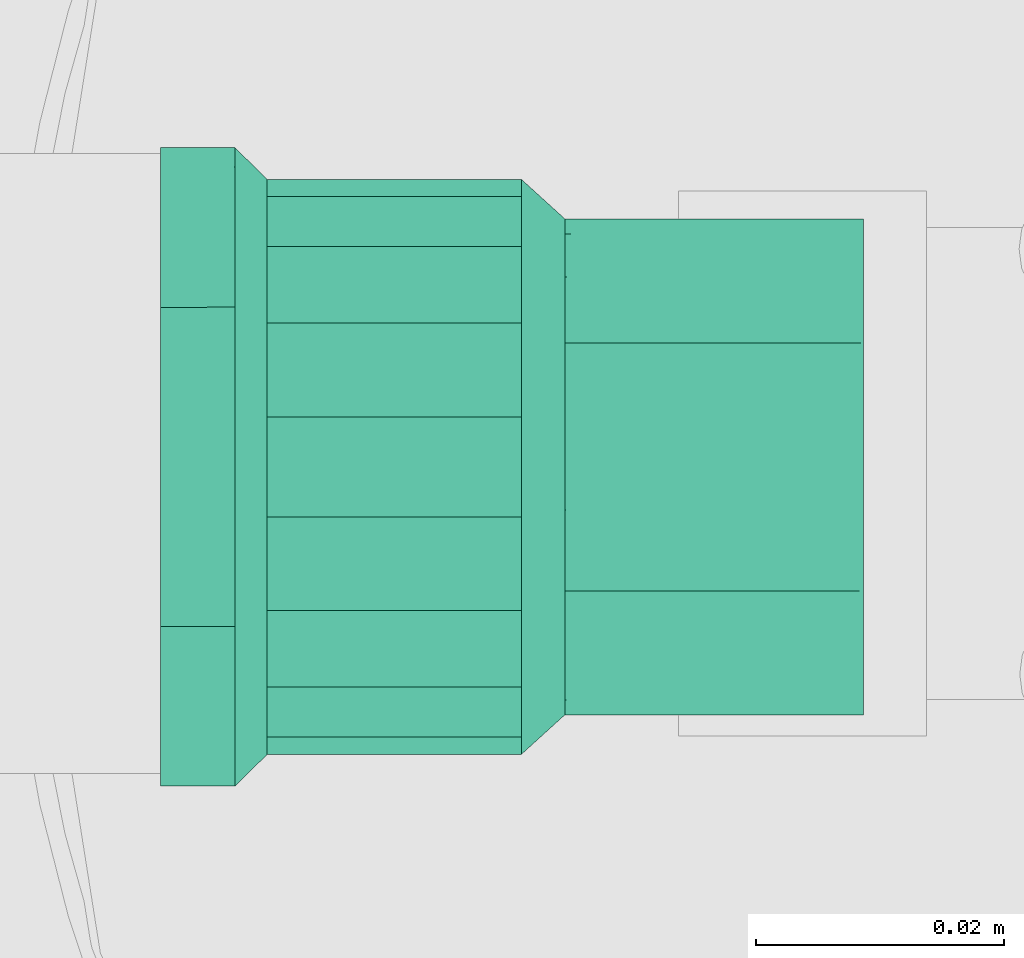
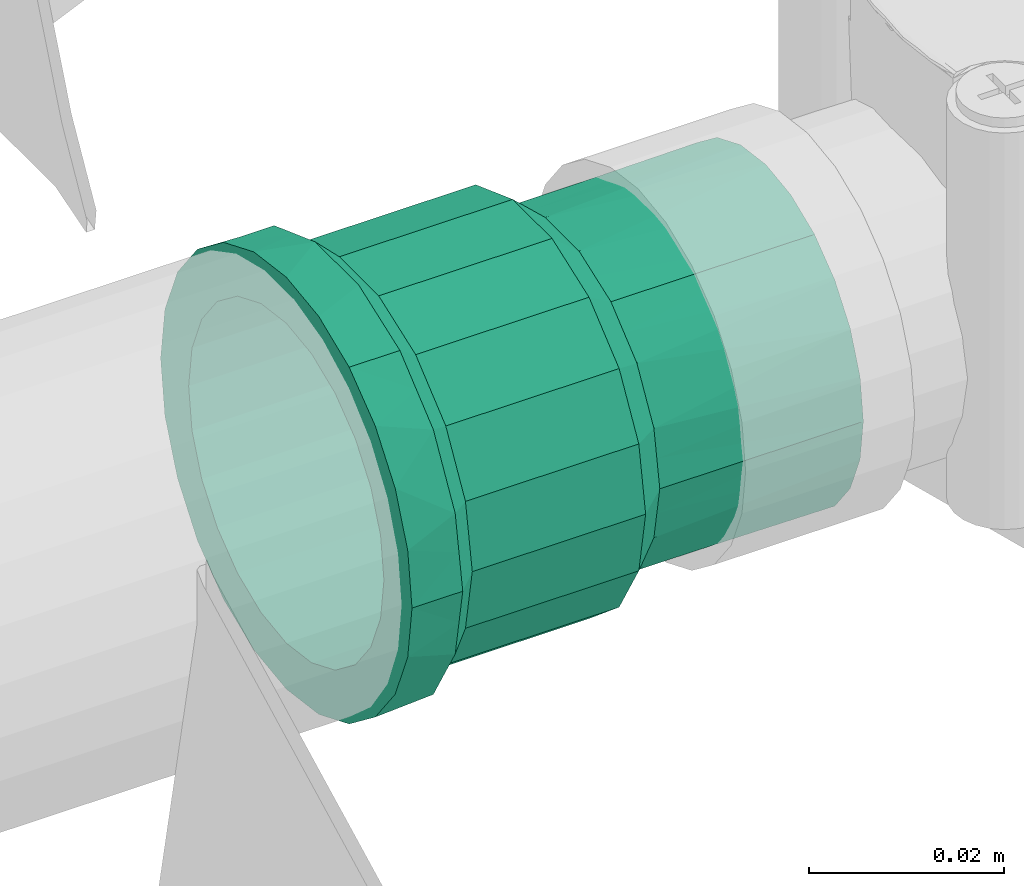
# One storey, part 147 of 166: 1 flow fitting.
"""IFC2X3 building model written with IfcOpenShell, lengths in metres."""

from ifc_helpers import new_model, entity, si_unit, converted_unit, direction, frame, origin, place, context, subcontext, project, spatial, faceted_brep, source, transform, mapped, material, type_object, type_shapes, element, save


model = new_model("IFC2X3")

# Units and contexts
model_context = context("Model", 3, precision=1e-05, world=origin(), true_north=direction((6.123233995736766e-17, 1.0)))
body_context = subcontext(model_context, "Body", "Model", "MODEL_VIEW")
ifc_project = project(units=[si_unit("LENGTHUNIT", "METRE"), converted_unit("PLANEANGLEUNIT", "DEGREE", entity("IfcPlaneAngleMeasure", 0.017453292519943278), si_unit("PLANEANGLEUNIT", "RADIAN"), dimensions=[0, 0, 0, 0, 0, 0, 0]), si_unit("AREAUNIT", "SQUARE_METRE")], contexts=[model_context])

# Site, building, storey
site_placement = place(None, origin())
site = spatial("IfcSite", under=ifc_project, at=site_placement, Name="Default", CompositionType="ELEMENT")
building_placement = place(site_placement, origin())
building = spatial("IfcBuilding", under=site, at=building_placement, Name="CASA DE ACOLHIDA PARA IDOSOS", CompositionType="ELEMENT")
storey_placement = place(building_placement, frame((0.0, 0.0, -1.7499999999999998)))
storey = spatial("IfcBuildingStorey", under=building, at=storey_placement, Name="IMPLANTAÇÃO DRENAGEM", CompositionType="ELEMENT", Elevation=-1.7499999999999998)

# Flow fitting
ifc_material = material(Name="PVC Marrom")
pipe_fitting_type = type_object("IfcPipeFittingType", Name="AF_Soldavel_Adaptador Curto com Bolsa e Rosca:Standard", PredefinedType="NOTDEFINED", material=ifc_material)
shared_shape = source(origin(), body_context, "Body", "Brep", [
    faceted_brep([(0.0, 0.0099999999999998, -0.017320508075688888), (0.0, 0.018207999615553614, -0.018207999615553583), (0.0, 0.012875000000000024, -0.02230015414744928), (0.0, 0.014142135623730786, -0.014142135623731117), (0.0, 0.0051763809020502, -0.019318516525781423), (0.0, 0.022300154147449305, -0.01287499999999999), (0.0, 0.01732050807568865, -0.01000000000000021), (0.0, 0.0193185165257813, -0.005176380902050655), (0.0, 0.02487259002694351, -0.006664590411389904), (0.0, 0.02, 0.0), (0.0, 0.025750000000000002, 0.0), (0.0, 0.019318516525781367, 0.00517638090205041), (0.0, 0.024872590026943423, 0.006664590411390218), (0.0, 0.01732050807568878, 0.00999999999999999), (0.0, 0.02230015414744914, 0.012875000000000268), (0.0, 0.014142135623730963, 0.014142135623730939), (0.0, 0.018207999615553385, 0.018207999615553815), (0.0, 0.010000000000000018, 0.017320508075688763), (0.0, 0.012874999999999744, 0.022300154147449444), (0.0, 0.00517638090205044, 0.01931851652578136), (0.0, 0.006664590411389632, 0.024872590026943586), (0.0, 0.0, 0.02), (0.0, 0.0, 0.025750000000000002), (0.0, -0.005176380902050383, 0.019318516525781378), (0.0, -0.0066645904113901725, 0.024872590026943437), (0.0, -0.009999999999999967, 0.017320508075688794), (0.0, -0.012875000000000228, 0.022300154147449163), (0.0, -0.01414213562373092, 0.014142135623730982), (0.0, -0.01820799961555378, 0.01820799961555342), (0.0, -0.01732050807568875, 0.010000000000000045), (0.0, -0.02230015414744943, 0.012874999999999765), (0.0, -0.024872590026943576, 0.006664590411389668), (0.0, -0.01931851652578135, 0.005176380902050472), (0.0, -0.025750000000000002, 0.0), (0.0, -0.02, 0.0), (0.0, -0.02487259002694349, -0.006664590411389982), (0.0, -0.01931851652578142, -0.005176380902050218), (0.0, -0.02230015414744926, -0.012875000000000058), (0.0, -0.01732050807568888, -0.009999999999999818), (0.0, -0.01820799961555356, -0.018207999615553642), (0.0, -0.014142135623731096, -0.014142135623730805), (0.0, -0.012874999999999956, -0.022300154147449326), (0.0, -0.010000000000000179, -0.01732050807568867), (0.0, -0.006664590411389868, -0.024872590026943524), (0.0, -0.005176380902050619, -0.01931851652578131), (0.0, 0.0, -0.025750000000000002), (0.0, 0.0, -0.02), (0.0, 0.006664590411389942, -0.0248725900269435), (0.005999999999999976, -0.024973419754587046, 0.004403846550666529), (0.005999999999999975, -0.024768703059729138, 0.005564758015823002), (0.005999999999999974, -0.024196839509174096, 0.008807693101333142), (0.005999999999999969, -0.019724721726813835, 0.016552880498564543), (0.005999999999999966, -0.016298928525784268, 0.019427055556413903), (0.005999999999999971, -0.021960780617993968, 0.012680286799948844), (0.005999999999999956, -0.004468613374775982, 0.02535929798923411), (0.00599999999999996, -0.008670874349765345, 0.02383026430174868), (0.0059999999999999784, -0.025750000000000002, 0.0), (0.0059999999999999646, -0.01287313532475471, 0.02230123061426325), (0.005999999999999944, 0.008676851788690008, 0.023828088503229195), (0.00599999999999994, 0.012878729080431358, 0.022298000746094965), (0.005999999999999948, 0.004474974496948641, 0.02535817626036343), (0.005999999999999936, 0.016303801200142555, 0.019422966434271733), (0.005999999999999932, 0.019728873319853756, 0.016547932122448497), (0.005999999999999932, 0.024199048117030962, 0.008801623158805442), (0.0059999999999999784, 0.025750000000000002, 0.0), (0.005999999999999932, 0.021963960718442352, 0.012674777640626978), (0.0059999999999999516, 3.180561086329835e-06, 0.02535873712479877), (0.006000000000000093, 0.024199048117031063, -0.00880162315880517), (0.006000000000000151, 0.019728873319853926, -0.016547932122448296), (0.006000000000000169, 0.01630380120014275, -0.019422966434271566), (0.006000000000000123, 0.021963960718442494, -0.012674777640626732), (0.006000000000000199, 0.004474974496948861, -0.025358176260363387), (0.006000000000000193, 0.008676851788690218, -0.023828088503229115), (0.006000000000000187, 0.012878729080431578, -0.02229800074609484), (0.006000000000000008, -0.02497341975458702, -0.004403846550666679), (0.006000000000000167, -0.008670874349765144, -0.023830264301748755), (0.0060000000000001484, -0.012873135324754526, -0.022301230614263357), (0.006000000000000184, -0.004468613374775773, -0.02535929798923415), (0.006000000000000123, -0.016298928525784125, -0.019427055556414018), (0.006000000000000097, -0.01972472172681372, -0.016552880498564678), (0.006000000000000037, -0.024196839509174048, -0.008807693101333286), (0.006000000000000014, -0.024768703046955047, -0.005564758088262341), (0.006000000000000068, -0.021960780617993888, -0.012680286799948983), (0.006000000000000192, 3.1805610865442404e-06, -0.02535873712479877), (0.029099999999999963, -0.021800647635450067, 0.007935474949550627), (0.008600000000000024, -0.021800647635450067, 0.007935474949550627), (0.008600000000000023, -0.022500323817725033, 0.0039677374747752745), (0.00860000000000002, -0.023200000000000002, 0.0), (0.02910000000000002, -0.023200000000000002, 0.0), (0.02909999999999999, -0.022482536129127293, 0.004068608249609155), (0.02909999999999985, -0.011598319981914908, 0.020092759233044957), (0.00860000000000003, -0.011598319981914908, 0.020092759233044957), (0.00860000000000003, -0.014684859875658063, 0.017503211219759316), (0.008600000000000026, -0.017771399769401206, 0.014913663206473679), (0.029099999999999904, -0.017771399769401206, 0.014913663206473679), (0.02909999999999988, -0.014684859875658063, 0.017503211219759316), (0.008600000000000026, -0.019786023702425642, 0.011424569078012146), (0.02909999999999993, -0.019786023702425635, 0.01142456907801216), (0.00860000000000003, -0.007812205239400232, 0.02147037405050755), (0.02909999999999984, -0.007812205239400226, 0.021470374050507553), (0.029099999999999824, -0.004026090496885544, 0.02284798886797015), (0.00860000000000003, -0.004026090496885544, 0.02284798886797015), (0.00860000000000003, 2.8655929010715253e-06, 0.022847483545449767), (0.029099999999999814, 2.8655929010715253e-06, 0.022847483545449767), (0.029099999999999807, 0.004031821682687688, 0.022846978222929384), (0.00860000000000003, 0.004031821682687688, 0.022846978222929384), (0.029099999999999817, 0.011603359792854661, 0.020089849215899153), (0.00860000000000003, 0.011603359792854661, 0.020089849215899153), (0.00860000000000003, 0.007817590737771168, 0.021468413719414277), (0.029099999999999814, 0.007817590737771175, 0.021468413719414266), (0.029099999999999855, 0.017775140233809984, 0.014909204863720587), (0.00860000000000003, 0.017775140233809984, 0.014909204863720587), (0.00860000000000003, 0.01468925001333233, 0.017499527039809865), (0.02909999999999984, 0.014689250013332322, 0.01749952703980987), (0.02909999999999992, 0.021802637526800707, 0.00793000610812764), (0.008600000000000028, 0.021802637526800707, 0.00793000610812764), (0.00860000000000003, 0.019788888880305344, 0.01141960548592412), (0.02909999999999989, 0.019788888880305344, 0.011419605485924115), (0.02910000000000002, 0.023200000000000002, 0.0), (0.00860000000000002, 0.023200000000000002, 0.0), (0.029100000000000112, 0.021802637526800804, -0.007930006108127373), (0.008600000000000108, 0.021802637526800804, -0.007930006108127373), (0.00860000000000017, -0.011598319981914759, -0.020092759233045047), (0.02910000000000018, -0.011598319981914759, -0.020092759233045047), (0.02910000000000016, -0.01468485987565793, -0.017503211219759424), (0.029100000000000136, -0.0177713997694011, -0.014913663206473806), (0.008600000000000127, -0.0177713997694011, -0.014913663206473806), (0.00860000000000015, -0.01468485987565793, -0.017503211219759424), (0.0086000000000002, 0.01160335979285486, -0.020089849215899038), (0.00860000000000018, 0.014689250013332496, -0.017499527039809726), (0.008600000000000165, 0.017775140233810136, -0.014909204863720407), (0.02910000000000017, 0.017775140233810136, -0.014909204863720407), (0.029100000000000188, 0.014689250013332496, -0.017499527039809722), (0.02910000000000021, 0.01160335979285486, -0.020089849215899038), (0.029100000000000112, -0.01978602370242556, -0.011424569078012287), (0.02910000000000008, -0.021800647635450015, -0.007935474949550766), (0.008600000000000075, -0.021800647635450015, -0.007935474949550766), (0.0086000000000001, -0.01978602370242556, -0.011424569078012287), (0.008600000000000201, -0.004026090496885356, -0.022847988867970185), (0.029100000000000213, -0.004026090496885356, -0.022847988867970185), (0.029100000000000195, -0.007812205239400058, -0.021470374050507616), (0.008600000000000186, -0.007812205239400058, -0.021470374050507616), (0.008600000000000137, 0.019788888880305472, -0.01141960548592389), (0.029100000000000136, 0.01978888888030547, -0.01141960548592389), (0.008600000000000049, -0.02250032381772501, -0.00396773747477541), (0.029100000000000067, -0.022258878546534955, -0.005336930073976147), (0.029100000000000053, -0.02248253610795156, -0.004068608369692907), (0.008600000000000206, 0.00781759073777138, -0.02146841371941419), (0.029100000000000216, 0.00781759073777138, -0.02146841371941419), (0.029100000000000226, 0.0040318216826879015, -0.022846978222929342), (0.008600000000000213, 0.0040318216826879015, -0.022846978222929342), (0.008600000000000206, 2.8655929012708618e-06, -0.022847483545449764), (0.02910000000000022, 2.8655929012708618e-06, -0.022847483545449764), (0.056699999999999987, 0.0, -0.02), (0.056699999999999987, 0.00517638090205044, -0.01931851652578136), (0.056699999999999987, 0.010000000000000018, -0.017320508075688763), (0.056699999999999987, 0.014142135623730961, -0.01414213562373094), (0.056699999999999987, 0.01732050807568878, -0.009999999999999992), (0.056699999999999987, 0.019318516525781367, -0.00517638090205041), (0.056699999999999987, 0.02, 0.0), (0.056699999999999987, 0.0193185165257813, 0.005176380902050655), (0.056699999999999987, 0.01732050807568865, 0.01000000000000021), (0.056699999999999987, 0.014142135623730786, 0.014142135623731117), (0.056699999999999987, 0.0099999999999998, 0.017320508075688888), (0.056699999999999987, 0.0051763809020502, 0.019318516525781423), (0.056699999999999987, 0.0, 0.02), (0.056699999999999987, -0.005176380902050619, 0.01931851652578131), (0.056699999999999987, -0.010000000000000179, 0.01732050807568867), (0.056699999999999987, -0.014142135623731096, 0.014142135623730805), (0.056699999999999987, -0.01732050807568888, 0.009999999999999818), (0.056699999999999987, -0.01931851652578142, 0.005176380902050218), (0.056699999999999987, -0.02, 0.0), (0.056699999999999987, -0.01931851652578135, -0.005176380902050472), (0.056699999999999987, -0.01732050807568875, -0.010000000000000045), (0.056699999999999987, -0.01414213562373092, -0.014142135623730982), (0.056699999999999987, -0.009999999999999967, -0.017320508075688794), (0.056699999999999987, -0.005176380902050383, -0.019318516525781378), (0.03261999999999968, -0.0067346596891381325, 0.018508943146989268), (0.03261999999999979, -0.015320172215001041, 0.012856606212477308), (0.03261999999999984, -0.017056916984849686, 0.0098487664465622), (0.032619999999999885, -0.01879366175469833, 0.006840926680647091), (0.032619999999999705, -0.009998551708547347, 0.01732134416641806), (0.032619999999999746, -0.012659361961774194, 0.015088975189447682), (0.03261999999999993, -0.019188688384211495, 0.004600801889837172), (0.032619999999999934, -0.01939683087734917, 0.0034204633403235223), (0.03261999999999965, -0.0034707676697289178, 0.019696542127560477), (0.03261999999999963, 0.0034757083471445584, 0.019695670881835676), (0.032619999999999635, 2.470338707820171e-06, 0.019696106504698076), (0.03261999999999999, -0.02, 0.0), (0.032619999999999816, 0.01879537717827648, 0.006836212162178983), (0.03261999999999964, 0.006739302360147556, 0.018507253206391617), (0.03261999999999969, 0.012663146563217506, 0.0150857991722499), (0.032619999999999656, 0.010002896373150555, 0.017318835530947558), (0.03261999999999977, 0.01705938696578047, 0.009844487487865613), (0.03261999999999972, 0.015323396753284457, 0.012852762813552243), (0.03261999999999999, 0.02, 0.0), (0.03262000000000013, 0.015323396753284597, -0.012852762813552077), (0.0326200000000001, 0.017059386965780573, -0.009844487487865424), (0.03262000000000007, 0.018795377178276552, -0.006836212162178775), (0.032620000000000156, 0.010002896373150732, -0.017318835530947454), (0.03262000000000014, 0.012663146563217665, -0.015085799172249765), (0.03262000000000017, 0.0034757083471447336, -0.019695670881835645), (0.03262000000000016, 0.006739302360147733, -0.01850725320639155), (0.032620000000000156, -0.0034707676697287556, -0.019696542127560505), (0.03262000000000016, 2.4703387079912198e-06, -0.019696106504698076), (0.03262000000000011, -0.012659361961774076, -0.015088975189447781), (0.032620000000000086, -0.015320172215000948, -0.01285660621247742), (0.03262000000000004, -0.018793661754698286, -0.006840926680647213), (0.03262000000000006, -0.01705691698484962, -0.009848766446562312), (0.03262000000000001, -0.01939683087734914, -0.0034204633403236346), (0.03262000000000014, -0.006734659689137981, -0.018508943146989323), (0.03262000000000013, -0.009998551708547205, -0.017321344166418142), (0.00860000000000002, -0.02, 0.0), (0.02910000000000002, -0.02, 0.0), (0.02910000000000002, -0.019318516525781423, -0.005176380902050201), (0.00860000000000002, -0.019318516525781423, -0.005176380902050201), (0.0059999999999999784, -0.019318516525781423, -0.005176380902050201), (0.0059999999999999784, -0.02, 0.0), (0.02910000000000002, -0.017320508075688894, -0.009999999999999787), (0.00860000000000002, -0.017320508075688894, -0.009999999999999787), (0.0059999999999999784, -0.017320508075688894, -0.009999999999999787), (0.00860000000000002, -0.010000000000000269, -0.017320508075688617), (0.0059999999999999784, -0.010000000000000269, -0.017320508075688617), (0.0059999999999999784, -0.014142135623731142, -0.01414213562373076), (0.00860000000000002, -0.014142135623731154, -0.014142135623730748), (0.02910000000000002, -0.014142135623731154, -0.014142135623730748), (0.02910000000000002, -0.010000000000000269, -0.017320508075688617), (0.00860000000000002, -0.005176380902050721, -0.019318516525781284), (0.0059999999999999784, -0.005176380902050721, -0.019318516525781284), (0.02910000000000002, -0.005176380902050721, -0.019318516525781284), (0.02910000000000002, 0.0, -0.02), (0.00860000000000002, 0.0, -0.02), (0.0059999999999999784, 0.0, -0.02), (0.02910000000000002, 0.005176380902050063, -0.01931851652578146), (0.00860000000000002, 0.005176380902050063, -0.01931851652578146), (0.0059999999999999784, 0.005176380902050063, -0.01931851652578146), (0.02910000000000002, 0.009999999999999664, -0.017320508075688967), (0.00860000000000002, 0.009999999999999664, -0.017320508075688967), (0.0059999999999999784, 0.009999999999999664, -0.017320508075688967), (0.00860000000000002, 0.017320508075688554, -0.010000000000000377), (0.0059999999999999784, 0.017320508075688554, -0.010000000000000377), (0.0059999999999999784, 0.01414213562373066, -0.014142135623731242), (0.00860000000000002, 0.014142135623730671, -0.01414213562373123), (0.02910000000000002, 0.014142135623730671, -0.01414213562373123), (0.02910000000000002, 0.017320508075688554, -0.010000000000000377), (0.00860000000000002, 0.019318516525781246, -0.00517638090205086), (0.0059999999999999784, 0.019318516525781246, -0.00517638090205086), (0.02910000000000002, 0.019318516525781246, -0.00517638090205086), (0.02910000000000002, 0.02, 0.0), (0.00860000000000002, 0.02, 0.0), (0.0059999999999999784, 0.02, 0.0), (0.02910000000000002, 0.01931851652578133, 0.005176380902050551), (0.00860000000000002, 0.01931851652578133, 0.005176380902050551), (0.0059999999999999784, 0.01931851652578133, 0.005176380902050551), (0.02910000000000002, 0.017320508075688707, 0.010000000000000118), (0.00860000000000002, 0.017320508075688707, 0.010000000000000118), (0.0059999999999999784, 0.017320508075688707, 0.010000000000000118), (0.00860000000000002, 0.009999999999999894, 0.017320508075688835), (0.0059999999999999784, 0.009999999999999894, 0.017320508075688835), (0.0059999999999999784, 0.014142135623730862, 0.014142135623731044), (0.00860000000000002, 0.014142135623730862, 0.014142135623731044), (0.02910000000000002, 0.014142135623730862, 0.014142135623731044), (0.02910000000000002, 0.009999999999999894, 0.017320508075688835), (0.00860000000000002, 0.005176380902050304, 0.019318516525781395), (0.0059999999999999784, 0.005176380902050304, 0.019318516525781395), (0.02910000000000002, 0.005176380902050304, 0.019318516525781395), (0.02910000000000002, 0.0, 0.02), (0.00860000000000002, 0.0, 0.02), (0.0059999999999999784, 0.0, 0.02), (0.02910000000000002, -0.005176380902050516, 0.01931851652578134), (0.00860000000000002, -0.005176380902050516, 0.01931851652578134), (0.0059999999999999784, -0.005176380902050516, 0.01931851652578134), (0.00860000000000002, -0.019318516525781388, 0.005176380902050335), (0.0059999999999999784, -0.019318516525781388, 0.005176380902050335), (0.0059999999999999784, -0.017320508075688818, 0.009999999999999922), (0.00860000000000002, -0.017320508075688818, 0.009999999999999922), (0.02910000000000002, -0.017320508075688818, 0.009999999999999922), (0.02910000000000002, -0.019318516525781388, 0.005176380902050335), (0.00860000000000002, -0.014142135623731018, 0.014142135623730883), (0.02910000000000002, -0.014142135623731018, 0.014142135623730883), (0.0059999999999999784, -0.014142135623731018, 0.014142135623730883), (0.02910000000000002, -0.010000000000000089, 0.017320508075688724), (0.00860000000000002, -0.010000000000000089, 0.017320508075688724), (0.0059999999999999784, -0.010000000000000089, 0.017320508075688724)], [[[0, 1, 2]], [[3, 1, 0]], [[4, 0, 2]], [[1, 3, 5]], [[5, 3, 6]], [[5, 6, 7]], [[8, 5, 7]], [[9, 8, 7]], [[10, 8, 9]], [[10, 9, 11]], [[12, 10, 11]], [[12, 11, 13]], [[14, 12, 13]], [[14, 13, 15]], [[15, 16, 14]], [[15, 17, 16]], [[18, 16, 17]], [[19, 18, 17]], [[18, 19, 20]], [[21, 20, 19]], [[22, 20, 21]], [[21, 23, 22]], [[24, 22, 23]], [[25, 24, 23]], [[24, 25, 26]], [[25, 27, 26]], [[27, 28, 26]], [[28, 27, 29]], [[28, 29, 30]], [[30, 29, 31]], [[31, 29, 32]], [[33, 31, 32]], [[32, 34, 33]], [[33, 34, 35]], [[34, 36, 35]], [[37, 35, 36]], [[37, 36, 38]], [[39, 37, 38]], [[40, 39, 38]], [[40, 41, 39]], [[42, 41, 40]], [[43, 41, 42]], [[42, 44, 43]], [[43, 44, 45]], [[44, 46, 45]], [[46, 4, 47]], [[45, 46, 47]], [[2, 47, 4]], [[31, 48, 49, 50]], [[28, 51, 52]], [[51, 30, 50, 53]], [[54, 24, 55]], [[30, 31, 50]], [[56, 48, 33]], [[52, 57, 26]], [[52, 26, 28]], [[30, 51, 28]], [[58, 59, 18]], [[58, 18, 20]], [[26, 57, 55]], [[26, 55, 24]], [[22, 24, 54]], [[33, 48, 31]], [[20, 60, 58]], [[16, 61, 62]], [[12, 63, 64]], [[63, 14, 62, 65]], [[12, 64, 10]], [[18, 61, 16]], [[22, 54, 66, 60]], [[22, 60, 20]], [[14, 16, 62]], [[59, 61, 18]], [[14, 63, 12]], [[8, 64, 67]], [[1, 68, 69]], [[68, 5, 67, 70]], [[71, 47, 72]], [[5, 8, 67]], [[8, 10, 64]], [[2, 72, 47]], [[69, 73, 2]], [[5, 68, 1]], [[74, 33, 35]], [[75, 76, 41]], [[2, 73, 72]], [[75, 41, 43]], [[45, 47, 71]], [[69, 2, 1]], [[43, 77, 75]], [[39, 78, 79]], [[35, 80, 81, 74]], [[80, 37, 79, 82]], [[37, 80, 35]], [[41, 78, 39]], [[45, 71, 83, 77]], [[45, 77, 43]], [[37, 39, 79]], [[76, 78, 41]], [[74, 56, 33]], [[84, 85, 86, 87, 88, 89]], [[90, 91, 92, 93, 94, 95]], [[96, 85, 84, 97, 94, 93]], [[98, 91, 90, 99, 100, 101]], [[102, 101, 100, 103, 104, 105]], [[106, 107, 108, 105, 104, 109]], [[110, 111, 112, 107, 106, 113]], [[114, 115, 116, 111, 110, 117]], [[114, 118, 119, 115]], [[119, 118, 120, 121]], [[122, 123, 124, 125, 126, 127]], [[128, 129, 130, 131, 132, 133]], [[134, 135, 136, 137, 126, 125]], [[138, 139, 140, 123, 122, 141]], [[142, 121, 120, 143, 131, 130]], [[88, 87, 144, 136, 135, 145, 146]], [[147, 128, 133, 148, 149, 150]], [[151, 150, 149, 152, 139, 138]], [[153, 154, 155, 156, 157, 158, 159, 160, 161, 162, 163, 164, 165, 166, 167, 168, 169, 170, 171, 172, 173, 174, 175, 176]], [[177, 167, 166]], [[169, 168, 178]], [[169, 178, 179, 180]], [[181, 182, 167]], [[170, 180, 183, 184]], [[166, 185, 177]], [[178, 168, 182]], [[165, 186, 187, 185]], [[167, 182, 168]], [[184, 171, 170]], [[184, 188, 171]], [[169, 180, 170]], [[164, 186, 165]], [[161, 160, 189]], [[163, 190, 164]], [[191, 192, 163]], [[161, 189, 193, 194]], [[195, 160, 159]], [[190, 186, 164]], [[163, 192, 190]], [[161, 194, 162]], [[177, 181, 167]], [[162, 194, 191]], [[191, 163, 162]], [[160, 195, 189]], [[165, 185, 166]], [[195, 159, 158]], [[157, 156, 196]], [[157, 196, 197, 198]], [[199, 200, 155]], [[198, 195, 158]], [[154, 201, 202]], [[196, 156, 200]], [[153, 203, 204, 201]], [[153, 201, 154]], [[155, 200, 156]], [[205, 175, 174]], [[202, 155, 154]], [[202, 199, 155]], [[173, 206, 174]], [[157, 198, 158]], [[173, 172, 207]], [[173, 207, 208, 206]], [[171, 209, 172]], [[171, 188, 209]], [[176, 210, 203]], [[203, 153, 176]], [[211, 210, 175]], [[175, 210, 176]], [[174, 206, 205]], [[209, 207, 172]], [[205, 211, 175]], [[212, 213, 214, 215, 216, 36, 34, 217]], [[215, 214, 218, 219, 220, 38, 36, 216]], [[221, 222, 42, 40, 223, 224, 225, 226]], [[225, 224, 223, 40, 38, 220, 219, 218]], [[227, 228, 44, 42, 222, 221, 226, 229]], [[227, 229, 230, 231, 232, 46, 44, 228]], [[231, 230, 233, 234, 235, 4, 46, 232]], [[234, 233, 236, 237, 238, 0, 4, 235]], [[239, 240, 6, 3, 241, 242, 243, 244]], [[243, 242, 241, 3, 0, 238, 237, 236]], [[245, 246, 7, 6, 240, 239, 244, 247]], [[247, 248, 249, 250, 9, 7, 246, 245]], [[249, 248, 251, 252, 253, 11, 9, 250]], [[252, 251, 254, 255, 256, 13, 11, 253]], [[257, 258, 17, 15, 259, 260, 261, 262]], [[261, 260, 259, 15, 13, 256, 255, 254]], [[263, 264, 19, 17, 258, 257, 262, 265]], [[263, 265, 266, 267, 268, 21, 19, 264]], [[269, 270, 271, 23, 21, 268, 267, 266]], [[272, 273, 32, 29, 274, 275, 276, 277]], [[278, 279, 276, 275, 274, 29, 27, 280]], [[212, 217, 34, 32, 273, 272, 277, 213]], [[281, 282, 283, 25, 23, 271, 270, 269]], [[279, 278, 280, 27, 25, 283, 282, 281]], [[119, 121, 67, 64]], [[128, 73, 69, 68, 130, 129]], [[73, 128, 147, 150, 71, 72]], [[130, 68, 70, 67, 121, 142]], [[77, 138, 141, 122, 76, 75]], [[136, 80, 82, 79, 126, 137]], [[81, 80, 136, 144, 87, 56, 74]], [[83, 71, 150, 151, 138, 77]], [[78, 76, 122, 127, 126, 79]], [[85, 50, 49, 48, 56, 87, 86]], [[53, 50, 85, 96, 93, 51]], [[52, 51, 93, 92, 91, 57]], [[91, 98, 101, 54, 55, 57]], [[102, 105, 60, 66, 54, 101]], [[108, 107, 59, 58, 60, 105]], [[115, 119, 64, 63]], [[111, 116, 115, 63, 65, 62]], [[107, 112, 111, 62, 61, 59]], [[230, 229, 226, 225, 218, 214, 213, 277, 276, 279, 281, 269, 266, 265, 262, 261, 254, 251, 248, 247, 244, 243, 236, 233]], [[84, 89, 88, 188, 184, 183, 180]], [[185, 100, 99, 90, 181, 177]], [[95, 94, 178, 182, 181, 90]], [[97, 84, 180, 179, 178, 94]], [[100, 185, 187, 186, 104, 103]], [[189, 114, 117, 110, 194, 193]], [[104, 186, 190, 192, 106, 109]], [[189, 195, 118, 114]], [[113, 106, 192, 191, 194, 110]], [[195, 198, 120, 118]], [[133, 199, 202, 201, 149, 148]], [[199, 133, 132, 131, 196, 200]], [[143, 120, 198, 197, 196, 131]], [[139, 203, 210, 211, 123, 140]], [[207, 135, 134, 125, 206, 208]], [[145, 135, 207, 209, 188, 88, 146]], [[152, 149, 201, 204, 203, 139]], [[124, 123, 211, 205, 206, 125]]]),
])
type_shapes(pipe_fitting_type, [shared_shape])
flow_fitting_placement = place(storey_placement, frame((-49.25616936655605, 22.85467133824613, -0.20000000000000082)))
element("IfcFlowFitting", 1, at=flow_fitting_placement, inside=storey, type_object=pipe_fitting_type, material=ifc_material, Name="AF_Soldavel_Adaptador Curto com Bolsa e Rosca:Standard", ObjectType="AF_Soldavel_Adaptador Curto com Bolsa e Rosca:Standard", context=body_context, shape_type="MappedRepresentation", body=[
    mapped(shared_shape, transform((0.0, 0.0, 0.0), scale=1.0)),
])

save(model, "model.ifc")
